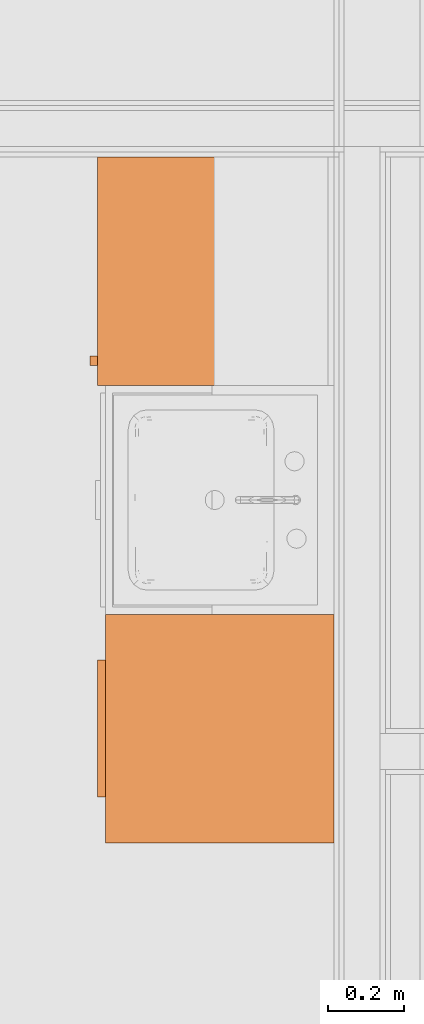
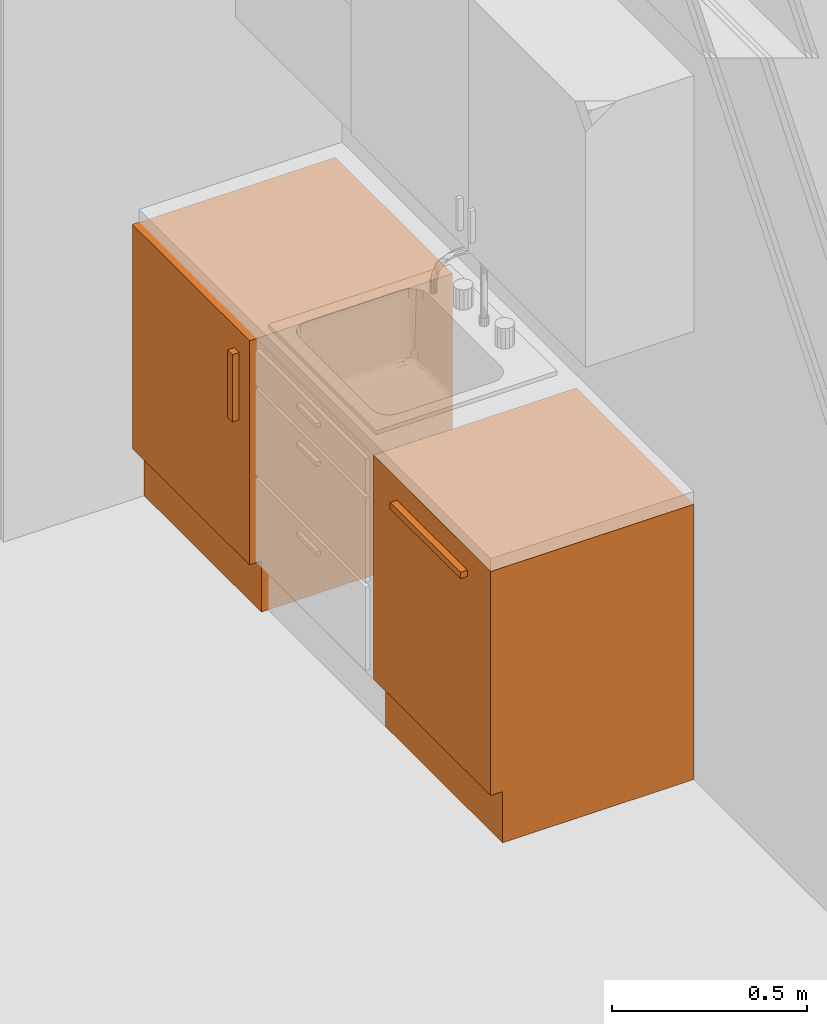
# One storey, part 11 of 12: 2 proxies.
"""IFC4 building model written with IfcOpenShell, lengths in millimetres."""

import ifcopenshell
import ifcopenshell.guid

model = None  # the IFC model being written
_history = None  # IfcOwnerHistory: only IFC2X3 demands one
_inside = {}  # id of a spatial element -> (the spatial element, [elements in it])
_under = {}  # id of a project, library or spatial element -> (it, [spatial elements below it])
_declared = {}  # id of a project -> (the project, [libraries it declares])
_typed = {}  # id of a type object -> (the type object, [elements of that type])
_made_of = {}  # id of a material, layer set ... -> (it, [elements and type objects made of it])


def new_model(schema):
    """Start an empty IFC model of exactly this schema.

    Asked for "IFC4X3", IfcOpenShell would pick the latest addendum, in which some entities
    have other attributes; the version numbers below select the first issue.
    IFC2X3 requires an IfcOwnerHistory on every rooted entity: one is made here for all.
    """
    global model, _history
    if schema == "IFC4X3":
        model = ifcopenshell.file(schema_version=(4, 3, 0, 0))
    else:
        model = ifcopenshell.file(schema=schema)
    _inside.clear()
    _under.clear()
    _declared.clear()
    _typed.clear()
    _made_of.clear()
    _history = None
    if model.schema == "IFC2X3":
        org = make("IfcOrganization", Name="unknown")
        user = make(
            "IfcPersonAndOrganization",
            ThePerson=make("IfcPerson", FamilyName="unknown"),
            TheOrganization=org,
        )
        app = make(
            "IfcApplication",
            ApplicationDeveloper=org,
            Version="unknown",
            ApplicationFullName="unknown",
            ApplicationIdentifier="unknown",
        )
        _history = make(
            "IfcOwnerHistory",
            OwningUser=user,
            OwningApplication=app,
            ChangeAction="ADDED",
            CreationDate=0,
        )
    return model


def make(cls, **values):
    """One entity of the class cls with the attributes given. An attribute that is None is left unset."""
    return model.create_entity(
        cls, **{name: value for name, value in values.items() if value is not None}
    )


def entity(cls, *values):
    """Any entity or typed value of the class cls, its attributes in the order of the schema. None: left unset."""
    e = model.create_entity(cls)
    for i, value in enumerate(values):
        if value is not None:
            e[i] = value
    return e


def rooted(cls, **values):
    """An entity with a GlobalId (a new one), such as an element, a storey or a relation."""
    return make(cls, GlobalId=ifcopenshell.guid.new(), OwnerHistory=_history, **values)


def si_unit(unit_type, name, prefix=None):
    """IfcSIUnit, for example si_unit("LENGTHUNIT", "METRE", prefix="MILLI")."""
    return make("IfcSIUnit", UnitType=unit_type, Prefix=prefix, Name=name)


def converted_unit(unit_type, name, factor, base, dimensions=None, offset=None):
    """IfcConversionBasedUnit, such as the inch: factor (a typed value) times the base unit."""
    return make(
        "IfcConversionBasedUnit"
        if offset is None
        else "IfcConversionBasedUnitWithOffset",
        ConversionOffset=offset,
        Dimensions=None
        if dimensions is None
        else entity("IfcDimensionalExponents", *dimensions),
        UnitType=unit_type,
        Name=name,
        ConversionFactor=make(
            "IfcMeasureWithUnit", ValueComponent=factor, UnitComponent=base
        ),
    )


def assignment(units):
    """IfcUnitAssignment: the units of a project."""
    return None if units is None else make("IfcUnitAssignment", Units=units)


def point(xyz):
    """IfcCartesianPoint."""
    return None if xyz is None else make("IfcCartesianPoint", Coordinates=xyz)


def direction(xyz):
    """IfcDirection."""
    return None if xyz is None else make("IfcDirection", DirectionRatios=xyz)


def frame(location, z_axis=None, x_axis=None):
    """IfcAxis2Placement3D, a coordinate frame: its origin and axes. An axis left out is left unset."""
    return make(
        "IfcAxis2Placement3D",
        Location=point(location),
        Axis=direction(z_axis),
        RefDirection=direction(x_axis),
    )


def origin():
    """The frame at (0, 0, 0) with its axes left unset."""
    return frame((0.0, 0.0, 0.0))


def place(relative_to, where):
    """IfcLocalPlacement: puts the frame where relative to a parent placement (None: the world)."""
    return make(
        "IfcLocalPlacement", PlacementRelTo=relative_to, RelativePlacement=where
    )


def context(
    kind, dimensions, precision=None, world=None, true_north=None, identifier=None
):
    """IfcGeometricRepresentationContext, for example the 3D "Model" context."""
    return make(
        "IfcGeometricRepresentationContext",
        ContextIdentifier=identifier,
        ContextType=kind,
        CoordinateSpaceDimension=dimensions,
        Precision=precision,
        WorldCoordinateSystem=world,
        TrueNorth=true_north,
    )


def subcontext(parent, identifier, kind, view, scale=None):
    """IfcGeometricRepresentationSubContext, for example "Body" below "Model"."""
    return make(
        "IfcGeometricRepresentationSubContext",
        ContextIdentifier=identifier,
        ContextType=kind,
        ParentContext=parent,
        TargetScale=scale,
        TargetView=view,
    )


def project(units=None, contexts=None):
    """IfcProject with its units and contexts."""
    return rooted(
        "IfcProject",
        Name="project",
        RepresentationContexts=contexts,
        UnitsInContext=assignment(units),
    )


def spatial(cls, under=None, at=None, **own):
    """A site, building, storey or space (cls), placed at a placement, below another one or the project."""
    s = rooted(cls, ObjectPlacement=at, **own)
    if under is not None:
        _under.setdefault(under.id(), (under, []))[1].append(s)
    return s


def point_list(points):
    """IfcCartesianPointList2D or 3D."""
    cls = (
        "IfcCartesianPointList2D" if len(points[0]) == 2 else "IfcCartesianPointList3D"
    )
    return make(cls, CoordList=points)


def indexed_curve(points, segments=None, self_intersect=None):
    """IfcIndexedPolyCurve: lines and arcs through numbered points (the first is 1)."""
    return make(
        "IfcIndexedPolyCurve",
        Points=point_list(points),
        Segments=segments,
        SelfIntersect=self_intersect,
    )


def outline(outer, holes=None, kind="AREA"):
    """IfcArbitraryClosedProfileDef: a profile drawn as a closed curve; with holes, ...WithVoids."""
    if holes is None:
        return make("IfcArbitraryClosedProfileDef", ProfileType=kind, OuterCurve=outer)
    return make(
        "IfcArbitraryProfileDefWithVoids",
        ProfileType=kind,
        OuterCurve=outer,
        InnerCurves=holes,
    )


def extrude(swept, where, along, depth):
    """IfcExtrudedAreaSolid: the profile swept, set in the frame where, extruded along a direction by depth."""
    return make(
        "IfcExtrudedAreaSolid",
        SweptArea=swept,
        Position=where,
        ExtrudedDirection=direction(along),
        Depth=depth,
    )


def shape(context_of_items, identifier, shape_type, items):
    """IfcShapeRepresentation: the items that make up one representation, for example the "Body"."""
    return make(
        "IfcShapeRepresentation",
        ContextOfItems=context_of_items,
        RepresentationIdentifier=identifier,
        RepresentationType=shape_type,
        Items=items,
    )


def source(mapping_origin, context_of_items, identifier, shape_type, items):
    """IfcRepresentationMap: a shape defined once, which mapped items show again and again."""
    return make(
        "IfcRepresentationMap",
        MappingOrigin=mapping_origin,
        MappedRepresentation=shape(context_of_items, identifier, shape_type, items),
    )


def transform(
    local_origin,
    x_axis=None,
    y_axis=None,
    z_axis=None,
    scale=None,
    scale2=None,
    scale3=None,
    uniform=True,
):
    """IfcCartesianTransformationOperator3D, or its non-uniform kind. x_axis, y_axis, z_axis: its Axis1, 2, 3."""
    if uniform:
        return make(
            "IfcCartesianTransformationOperator3D",
            Axis1=direction(x_axis),
            Axis2=direction(y_axis),
            LocalOrigin=point(local_origin),
            Scale=scale,
            Axis3=direction(z_axis),
        )
    return make(
        "IfcCartesianTransformationOperator3DnonUniform",
        Axis1=direction(x_axis),
        Axis2=direction(y_axis),
        LocalOrigin=point(local_origin),
        Scale=scale,
        Axis3=direction(z_axis),
        Scale2=scale2,
        Scale3=scale3,
    )


def mapped(mapping_source, mapping_target):
    """IfcMappedItem: shows the shape of a source again, moved by a transform."""
    return make(
        "IfcMappedItem", MappingSource=mapping_source, MappingTarget=mapping_target
    )


def material(Name=None, Category=None):
    """IfcMaterial."""
    return make("IfcMaterial", Name=Name, Category=Category)


def made_of(thing, what):
    """Note that an element or type object is made of a material, layer set ...; save() writes the relation."""
    if what is not None:
        _made_of.setdefault(what.id(), (what, []))[1].append(thing)
    return thing


def type_object(cls, material=None, **own):
    """A type object (cls), such as IfcWallType, which elements share."""
    return made_of(rooted(cls, **own), material)


def type_shapes(of_type, sources):
    """Give a type object the sources (RepresentationMaps) that its elements show as mapped items."""
    of_type.RepresentationMaps = sources


def element(
    cls,
    number,
    at=None,
    inside=None,
    cuts=None,
    type_object=None,
    material=None,
    context=None,
    identifier="Body",
    shape_type=None,
    held_by="IfcProductDefinitionShape",
    body=None,
    shapes=None,
    **own,
):
    """One element of the class cls, such as IfcWall. Its Tag is "e" and its number.

    at: its placement. inside: the storey or other place that contains it. cuts: it is an
    opening in that element (IfcRelVoidsElement). A single representation is given by context,
    identifier, shape_type and body (its items); several are given by shapes. held_by: the class
    of the entity that holds the representations. save() writes the other relations.
    """
    e = rooted(cls, Tag="e%d" % number, ObjectPlacement=at, **own)
    if body is not None:
        shapes = [shape(context, identifier, shape_type, body)]
    if shapes is not None:
        e.Representation = make(held_by, Representations=shapes)
    if inside is not None:
        _inside.setdefault(inside.id(), (inside, []))[1].append(e)
    if cuts is not None:
        rooted(
            "IfcRelVoidsElement", RelatingBuildingElement=cuts, RelatedOpeningElement=e
        )
    if type_object is not None:
        _typed.setdefault(type_object.id(), (type_object, []))[1].append(e)
    return made_of(e, material)


def aggregate(whole, parts):
    """IfcRelAggregates: a whole, such as a stair, and the parts it consists of."""
    return rooted("IfcRelAggregates", RelatingObject=whole, RelatedObjects=parts)


def save(model, path):
    """Write the relations noted so far, then the file.

    IfcRelAggregates (storeys below a building ...), IfcRelContainedInSpatialStructure (elements
    in a storey), IfcRelDefinesByType, IfcRelAssociatesMaterial and IfcRelDeclares: one each for
    every whole, place, type object, material and project.
    """
    for whole, parts in _under.values():
        aggregate(whole, parts)
    for where, things in _inside.values():
        rooted(
            "IfcRelContainedInSpatialStructure",
            RelatedElements=things,
            RelatingStructure=where,
        )
    for kind, things in _typed.values():
        rooted("IfcRelDefinesByType", RelatedObjects=things, RelatingType=kind)
    for what, things in _made_of.values():
        rooted("IfcRelAssociatesMaterial", RelatedObjects=things, RelatingMaterial=what)
    for by, libraries in _declared.values():
        rooted("IfcRelDeclares", RelatingContext=by, RelatedDefinitions=libraries)
    model.write(path)


model = new_model("IFC4")

# Units and contexts
model_context = context("Model", 3, precision=0.01, world=origin(), true_north=direction((0.0, 1.0)))
body_context = subcontext(model_context, "Body", "Model", "MODEL_VIEW")
ifc_project = project(units=[si_unit("LENGTHUNIT", "METRE", prefix="MILLI"), si_unit("AREAUNIT", "SQUARE_METRE"), si_unit("VOLUMEUNIT", "CUBIC_METRE"), converted_unit("PLANEANGLEUNIT", "DEGREE", entity("IfcPlaneAngleMeasure", 0.017453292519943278), si_unit("PLANEANGLEUNIT", "RADIAN"), dimensions=[0, 0, 0, 0, 0, 0, 0])], contexts=[model_context])

# Site, building, storey, space
site_placement = place(None, origin())
site = spatial("IfcSite", under=ifc_project, at=site_placement, Name="Tomtens navn", CompositionType="ELEMENT")
building_placement = place(site_placement, origin())
building = spatial("IfcBuilding", under=site, at=building_placement, Name="Byggets navn", CompositionType="ELEMENT")
storey_placement = place(building_placement, frame((0.0, 0.0, 3500.0)))
storey = spatial("IfcBuildingStorey", under=building, at=storey_placement, Name="Level 02", CompositionType="ELEMENT", Elevation=3499.999999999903)
space_placement = place(storey_placement, origin())
space = spatial("IfcSpace", under=storey, at=space_placement, Name="205", CompositionType="ELEMENT", PredefinedType="NOTDEFINED")

# Proxies
ifc_material = material(Name="<Unnamed>")
building_element_proxy_type_1 = type_object("IfcBuildingElementProxyType", Name="Dishwasher:Dishwasher", PredefinedType="NOTDEFINED", material=ifc_material)
shared_shape_1 = source(origin(), body_context, "Body", "SweptSolid", [
    extrude(outline(indexed_curve([(-10.000000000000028, -179.99999999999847), (10.000000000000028, -179.99999999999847), (10.000000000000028, 179.99999999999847), (-10.000000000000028, 179.99999999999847), (-10.000000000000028, -179.99999999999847)], self_intersect=False)), frame((300.0, -610.0, 771.6765284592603), z_axis=(0.0, 0.0, 1.0), x_axis=(0.0, 1.0, 0.0)), (0.0, 0.0, 1.0), 20.000000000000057),
    extrude(outline(indexed_curve([(-520.0, -211.66666666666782), (179.9999999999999, -211.66666666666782), (179.9999999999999, -176.66666666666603), (340.0, -176.66666666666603), (340.0, 388.3333333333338), (-520.0, 388.3333333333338), (-520.0, -211.66666666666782)], self_intersect=False)), frame((0.0, -388.3333333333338, 340.0), z_axis=(1.0, 0.0, 0.0), x_axis=(0.0, 0.0, -1.0)), (0.0, 0.0, 1.0), 599.999999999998),
])
type_shapes(building_element_proxy_type_1, [shared_shape_1])
proxy_1_placement = place(space_placement, frame((63496.35352810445, 12807.466456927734, 0.0), z_axis=(0.0, 0.0, 1.0), x_axis=(0.0, -1.0, 0.0)))
element("IfcBuildingElementProxy", 1, at=proxy_1_placement, inside=space, type_object=building_element_proxy_type_1, material=ifc_material, Name="Dishwasher:Dishwasher", PredefinedType="NOTDEFINED", context=body_context, shape_type="MappedRepresentation", body=[
    mapped(shared_shape_1, transform((0.0, 0.0, 0.0), scale=1.0)),
])
building_element_proxy_type_2 = type_object("IfcBuildingElementProxyType", Name="Refrigerator_Under Counter:600x600x860mm", PredefinedType="NOTDEFINED", material=ifc_material)
shared_shape_2 = source(origin(), body_context, "Body", "SweptSolid", [
    extrude(outline(indexed_curve([(-520.0, -388.33333333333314), (340.0, -388.33333333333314), (340.0, 176.66666666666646), (180.0, 176.66666666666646), (179.99999999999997, 211.66666666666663), (-520.0, 211.66666666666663), (-520.0, -388.33333333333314)], self_intersect=False)), frame((77.5174684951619, -173.31623145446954, 340.0), z_axis=(1.0, 0.0, 0.0), x_axis=(0.0, 0.0, -1.0)), (0.0, 0.0, 1.0), 600.0000000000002),
    extrude(outline(indexed_curve([(-12.5, -10.000000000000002), (12.5, -10.000000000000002), (12.5, 10.000000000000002), (-12.5, 10.000000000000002), (-12.5, -10.000000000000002)], self_intersect=False)), frame((142.90298939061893, 48.350435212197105, 581.305862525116), z_axis=(0.0, 0.0, 1.0), x_axis=(-1.0, 0.0, 0.0)), (0.0, 0.0, 1.0), 210.00000000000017),
])
type_shapes(building_element_proxy_type_2, [shared_shape_2])
proxy_2_placement = place(space_placement, frame((62914.70396331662, 13329.948988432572, 0.0), z_axis=(0.0, 0.0, 1.0), x_axis=(0.0, 1.0, 0.0)))
element("IfcBuildingElementProxy", 2, at=proxy_2_placement, inside=space, type_object=building_element_proxy_type_2, material=ifc_material, Name="Refrigerator_Under Counter:600x600x860mm", PredefinedType="NOTDEFINED", context=body_context, shape_type="MappedRepresentation", body=[
    mapped(shared_shape_2, transform((0.0, 0.0, 0.0), scale=1.0)),
])

save(model, "model.ifc")
